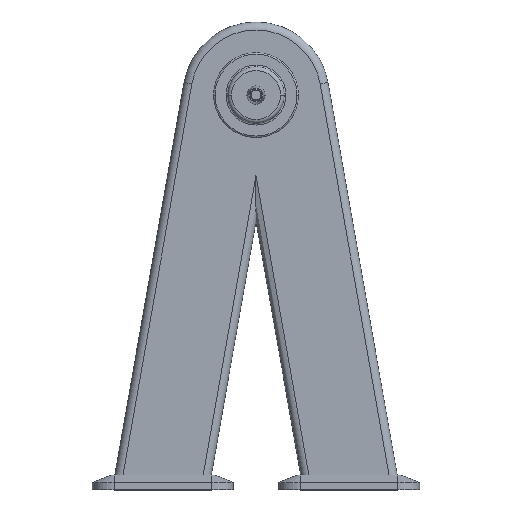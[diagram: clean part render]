
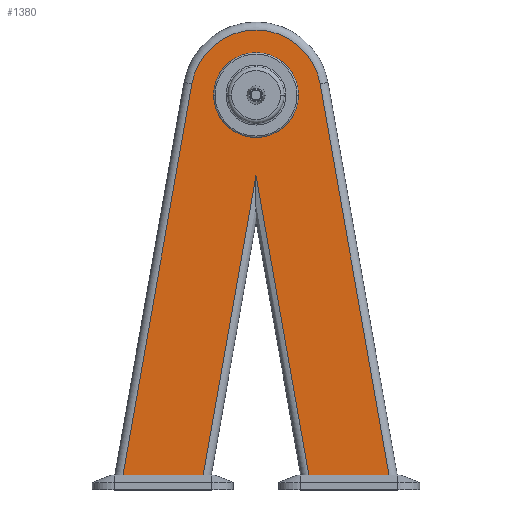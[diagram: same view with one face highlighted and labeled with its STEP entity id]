
A CAD part, top view. The second image highlights one B-rep face of the part: STEP entity #1380.
In plain terms, the highlighted planar face has unit normal (0, 0, 1).
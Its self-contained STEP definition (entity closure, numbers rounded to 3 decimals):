
#32 = DIRECTION ( 'NONE',  ( 1., 0., 0. ) ) ;
#36 = DIRECTION ( 'NONE',  ( 0., 0., 1. ) ) ;
#43 = VERTEX_POINT ( 'NONE', #1916 ) ;
#47 = CARTESIAN_POINT ( 'NONE',  ( 0., 540., 63. ) ) ;
#52 = DIRECTION ( 'NONE',  ( 1., 0., 0. ) ) ;
#109 = CARTESIAN_POINT ( 'NONE',  ( 87.648, 555.455, 63. ) ) ;
#112 = VERTEX_POINT ( 'NONE', #2326 ) ;
#119 = CIRCLE ( 'NONE', #934, 58. ) ;
#122 = VERTEX_POINT ( 'NONE', #2425 ) ;
#208 = VERTEX_POINT ( 'NONE', #1927 ) ;
#221 = VERTEX_POINT ( 'NONE', #1580 ) ;
#262 = ORIENTED_EDGE ( 'NONE', *, *, #2133, .T. ) ;
#315 = VERTEX_POINT ( 'NONE', #1493 ) ;
#336 = ORIENTED_EDGE ( 'NONE', *, *, #707, .F. ) ;
#437 = CARTESIAN_POINT ( 'NONE',  ( -186.984, -7.91, 63. ) ) ;
#459 = DIRECTION ( 'NONE',  ( -0.174, -0.985, 0. ) ) ;
#510 = VERTEX_POINT ( 'NONE', #1785 ) ;
#515 = VECTOR ( 'NONE', #651, 1000. ) ;
#544 = ORIENTED_EDGE ( 'NONE', *, *, #2316, .T. ) ;
#557 = CARTESIAN_POINT ( 'NONE',  ( 0., 430.583, 63. ) ) ;
#602 = DIRECTION ( 'NONE',  ( 0.174, -0.985, 0. ) ) ;
#651 = DIRECTION ( 'NONE',  ( -1., 0., 0. ) ) ;
#707 = EDGE_CURVE ( 'NONE', #112, #43, #1488, .T. ) ;
#721 = DIRECTION ( 'NONE',  ( 1., 0., 0. ) ) ;
#823 = VECTOR ( 'NONE', #862, 1000. ) ;
#825 = ORIENTED_EDGE ( 'NONE', *, *, #1312, .T. ) ;
#827 = ORIENTED_EDGE ( 'NONE', *, *, #1726, .T. ) ;
#862 = DIRECTION ( 'NONE',  ( -0.174, 0.985, 0. ) ) ;
#934 = AXIS2_PLACEMENT_3D ( 'NONE', #2467, #1238, #2643 ) ;
#951 = AXIS2_PLACEMENT_3D ( 'NONE', #2445, #2100, #721 ) ;
#966 = CARTESIAN_POINT ( 'NONE',  ( 0., 20., 63. ) ) ;
#993 = DIRECTION ( 'NONE',  ( -1., 0., 0. ) ) ;
#1006 = VECTOR ( 'NONE', #1638, 1000. ) ;
#1030 = EDGE_CURVE ( 'NONE', #510, #43, #1850, .T. ) ;
#1083 = ORIENTED_EDGE ( 'NONE', *, *, #2018, .F. ) ;
#1124 = ORIENTED_EDGE ( 'NONE', *, *, #1030, .T. ) ;
#1152 = ORIENTED_EDGE ( 'NONE', *, *, #1248, .F. ) ;
#1167 = LINE ( 'NONE', #1385, #515 ) ;
#1238 = DIRECTION ( 'NONE',  ( 0., 0., 1. ) ) ;
#1248 = EDGE_CURVE ( 'NONE', #208, #221, #2348, .T. ) ;
#1312 = EDGE_CURVE ( 'NONE', #1593, #122, #2724, .T. ) ;
#1352 = CARTESIAN_POINT ( 'NONE',  ( 87.648, 555.455, 63. ) ) ;
#1380 = ADVANCED_FACE ( 'NONE', ( #1668, #2552 ), #1690, .T. ) ;
#1385 = CARTESIAN_POINT ( 'NONE',  ( 0., 20., 63. ) ) ;
#1488 = LINE ( 'NONE', #966, #2477 ) ;
#1493 = CARTESIAN_POINT ( 'NONE',  ( 182.063, 20., 63. ) ) ;
#1534 = DIRECTION ( 'NONE',  ( 0., 0., 1. ) ) ;
#1580 = CARTESIAN_POINT ( 'NONE',  ( -58., 540., 63. ) ) ;
#1587 = LINE ( 'NONE', #2755, #1006 ) ;
#1593 = VERTEX_POINT ( 'NONE', #557 ) ;
#1634 = ORIENTED_EDGE ( 'NONE', *, *, #2762, .F. ) ;
#1638 = DIRECTION ( 'NONE',  ( 0.174, 0.985, 0. ) ) ;
#1668 = FACE_BOUND ( 'NONE', #1857, .T. ) ;
#1690 = PLANE ( 'NONE',  #951 ) ;
#1726 = EDGE_CURVE ( 'NONE', #315, #2729, #2524, .T. ) ;
#1741 = VECTOR ( 'NONE', #602, 1000. ) ;
#1785 = CARTESIAN_POINT ( 'NONE',  ( -87.648, 555.455, 63. ) ) ;
#1850 = LINE ( 'NONE', #437, #2031 ) ;
#1857 = EDGE_LOOP ( 'NONE', ( #1083, #1152 ) ) ;
#1916 = CARTESIAN_POINT ( 'NONE',  ( -182.063, 20., 63. ) ) ;
#1927 = CARTESIAN_POINT ( 'NONE',  ( 58., 540., 63. ) ) ;
#1955 = AXIS2_PLACEMENT_3D ( 'NONE', #47, #36, #32 ) ;
#2018 = EDGE_CURVE ( 'NONE', #221, #208, #119, .T. ) ;
#2031 = VECTOR ( 'NONE', #459, 1000. ) ;
#2100 = DIRECTION ( 'NONE',  ( 0., 0., 1. ) ) ;
#2133 = EDGE_CURVE ( 'NONE', #2729, #510, #2628, .T. ) ;
#2316 = EDGE_CURVE ( 'NONE', #112, #1593, #1587, .T. ) ;
#2326 = CARTESIAN_POINT ( 'NONE',  ( -72.397, 20., 63. ) ) ;
#2348 = CIRCLE ( 'NONE', #1955, 58. ) ;
#2425 = CARTESIAN_POINT ( 'NONE',  ( 72.397, 20., 63. ) ) ;
#2445 = CARTESIAN_POINT ( 'NONE',  ( 0., 540., 63. ) ) ;
#2467 = CARTESIAN_POINT ( 'NONE',  ( 0., 540., 63. ) ) ;
#2469 = CARTESIAN_POINT ( 'NONE',  ( 78.509, -14.664, 63. ) ) ;
#2477 = VECTOR ( 'NONE', #993, 1000. ) ;
#2496 = AXIS2_PLACEMENT_3D ( 'NONE', #2681, #1534, #52 ) ;
#2524 = LINE ( 'NONE', #109, #823 ) ;
#2552 = FACE_OUTER_BOUND ( 'NONE', #2701, .T. ) ;
#2628 = CIRCLE ( 'NONE', #2496, 89. ) ;
#2643 = DIRECTION ( 'NONE',  ( 1., 0., 0. ) ) ;
#2681 = CARTESIAN_POINT ( 'NONE',  ( 0., 540., 63. ) ) ;
#2701 = EDGE_LOOP ( 'NONE', ( #336, #544, #825, #1634, #827, #262, #1124 ) ) ;
#2724 = LINE ( 'NONE', #2469, #1741 ) ;
#2729 = VERTEX_POINT ( 'NONE', #1352 ) ;
#2755 = CARTESIAN_POINT ( 'NONE',  ( -10.833, 369.147, 63. ) ) ;
#2762 = EDGE_CURVE ( 'NONE', #315, #122, #1167, .T. ) ;
